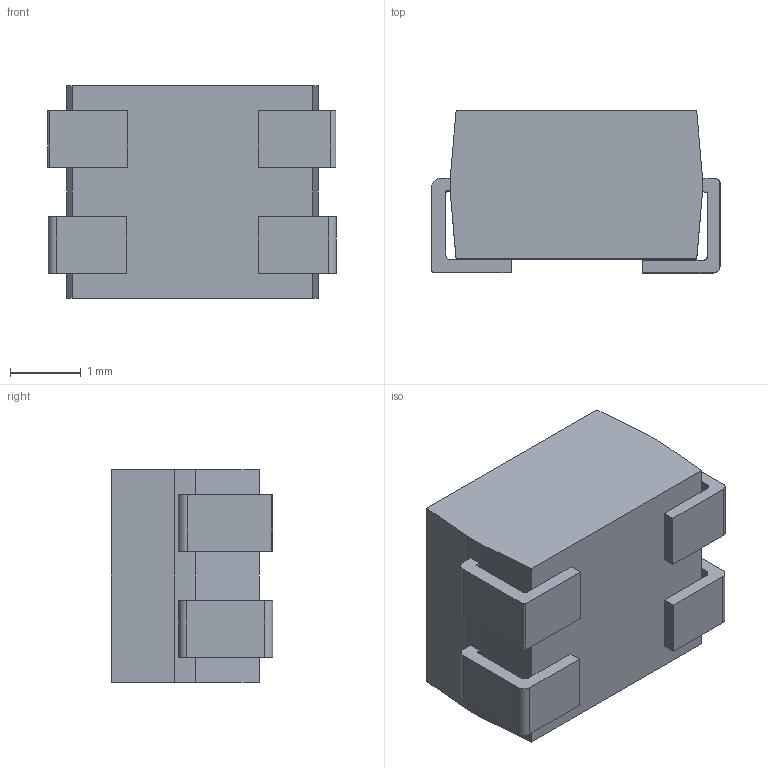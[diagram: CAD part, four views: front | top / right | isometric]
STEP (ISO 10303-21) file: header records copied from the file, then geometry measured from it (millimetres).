
FILE_DESCRIPTION(('FreeCAD Model'),'2;1');
FILE_NAME('/home/c-gooding/Google_Drive/Home/cLib.git/trunk/Freecad/Amber-LED.stp' ,'2017-02-24T11:40:33',('Author'),(''), 'Open CASCADE STEP processor 6.8','FreeCAD','Unknown');
FILE_SCHEMA(('AUTOMOTIVE_DESIGN_CC2 { 1 2 10303 214 -1 1 5 4 }'));
Length unit declared in the file: millimetre
Products named in the file (3): Pocket; Pad002; Pad001
Bounding box: 4.07 x 2.29 x 3 mm (x, y, z)
Volume: 21 mm3; surface area: 70.4 mm2
Topology: 5 solids, 5 shells, 69 faces, 174 edges, 116 vertices
Faces by surface type: plane 52, cylinder 17
Full cylindrical faces by diameter (mm): 2.4 x1
Entity records: 4888 total; most frequent: CARTESIAN_POINT 810, DIRECTION 679, LINE 454, VECTOR 454, ORIENTED_EDGE 348, PCURVE 348, DEFINITIONAL_REPRESENTATION 348, EDGE_CURVE 174
